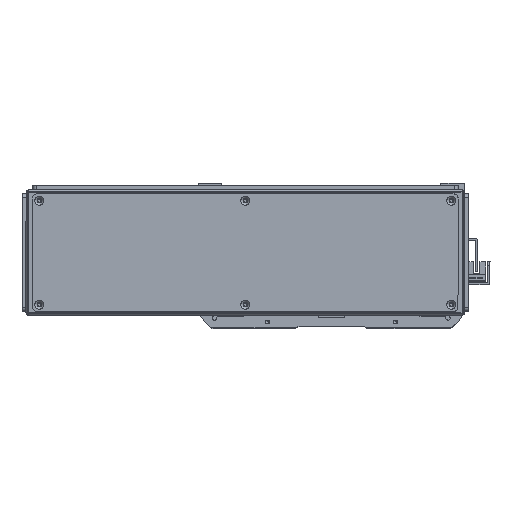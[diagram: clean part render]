
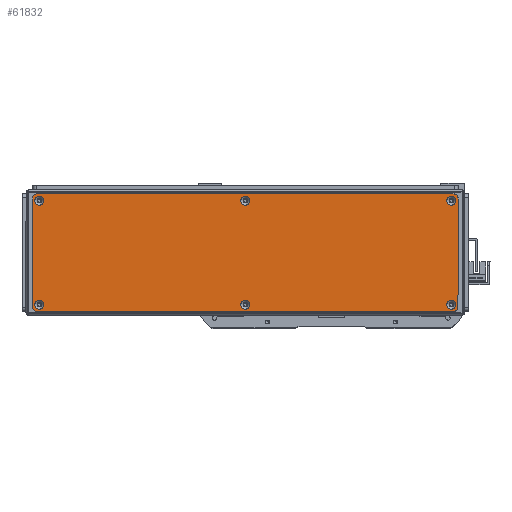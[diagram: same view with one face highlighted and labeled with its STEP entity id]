
A CAD part, front view. The second image highlights one B-rep face of the part: STEP entity #61832.
In plain terms, the highlighted planar face has unit normal (0, -1, 0).
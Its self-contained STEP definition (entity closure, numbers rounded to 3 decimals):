
#2290=FACE_BOUND('',#10142,.T.);
#2291=FACE_BOUND('',#10143,.T.);
#2292=FACE_BOUND('',#10144,.T.);
#2293=FACE_BOUND('',#10145,.T.);
#2294=FACE_BOUND('',#10146,.T.);
#2295=FACE_BOUND('',#10147,.T.);
#3544=CIRCLE('',#66507,3.45);
#3547=CIRCLE('',#66512,3.45);
#3550=CIRCLE('',#66517,3.45);
#3553=CIRCLE('',#66522,3.45);
#3556=CIRCLE('',#66527,3.45);
#3559=CIRCLE('',#66532,3.45);
#3562=CIRCLE('',#66537,3.);
#3564=CIRCLE('',#66540,3.);
#3565=CIRCLE('',#66541,3.);
#3566=CIRCLE('',#66542,3.);
#6618=FACE_OUTER_BOUND('',#10141,.T.);
#10141=EDGE_LOOP('',(#55796,#55797,#55798,#55799,#55800,#55801,#55802,#55803));
#10142=EDGE_LOOP('',(#55804));
#10143=EDGE_LOOP('',(#55805));
#10144=EDGE_LOOP('',(#55806));
#10145=EDGE_LOOP('',(#55807));
#10146=EDGE_LOOP('',(#55808));
#10147=EDGE_LOOP('',(#55809));
#17273=LINE('',#101525,#24450);
#17274=LINE('',#101529,#24451);
#17275=LINE('',#101533,#24452);
#17276=LINE('',#101536,#24453);
#24450=VECTOR('',#82158,10.);
#24451=VECTOR('',#82161,10.);
#24452=VECTOR('',#82164,10.);
#24453=VECTOR('',#82167,10.);
#30245=VERTEX_POINT('',#101455);
#30248=VERTEX_POINT('',#101465);
#30251=VERTEX_POINT('',#101475);
#30254=VERTEX_POINT('',#101485);
#30257=VERTEX_POINT('',#101495);
#30260=VERTEX_POINT('',#101505);
#30263=VERTEX_POINT('',#101515);
#30264=VERTEX_POINT('',#101516);
#30267=VERTEX_POINT('',#101524);
#30268=VERTEX_POINT('',#101526);
#30269=VERTEX_POINT('',#101528);
#30270=VERTEX_POINT('',#101530);
#30271=VERTEX_POINT('',#101532);
#30272=VERTEX_POINT('',#101534);
#38786=EDGE_CURVE('',#30245,#30245,#3544,.T.);
#38791=EDGE_CURVE('',#30248,#30248,#3547,.T.);
#38796=EDGE_CURVE('',#30251,#30251,#3550,.T.);
#38801=EDGE_CURVE('',#30254,#30254,#3553,.T.);
#38806=EDGE_CURVE('',#30257,#30257,#3556,.T.);
#38811=EDGE_CURVE('',#30260,#30260,#3559,.T.);
#38816=EDGE_CURVE('',#30263,#30264,#3562,.T.);
#38820=EDGE_CURVE('',#30263,#30267,#17273,.T.);
#38821=EDGE_CURVE('',#30268,#30267,#3564,.T.);
#38822=EDGE_CURVE('',#30268,#30269,#17274,.T.);
#38823=EDGE_CURVE('',#30270,#30269,#3565,.T.);
#38824=EDGE_CURVE('',#30270,#30271,#17275,.T.);
#38825=EDGE_CURVE('',#30272,#30271,#3566,.T.);
#38826=EDGE_CURVE('',#30272,#30264,#17276,.T.);
#55796=ORIENTED_EDGE('',*,*,#38816,.F.);
#55797=ORIENTED_EDGE('',*,*,#38820,.T.);
#55798=ORIENTED_EDGE('',*,*,#38821,.F.);
#55799=ORIENTED_EDGE('',*,*,#38822,.T.);
#55800=ORIENTED_EDGE('',*,*,#38823,.F.);
#55801=ORIENTED_EDGE('',*,*,#38824,.T.);
#55802=ORIENTED_EDGE('',*,*,#38825,.F.);
#55803=ORIENTED_EDGE('',*,*,#38826,.T.);
#55804=ORIENTED_EDGE('',*,*,#38786,.T.);
#55805=ORIENTED_EDGE('',*,*,#38791,.T.);
#55806=ORIENTED_EDGE('',*,*,#38796,.T.);
#55807=ORIENTED_EDGE('',*,*,#38801,.T.);
#55808=ORIENTED_EDGE('',*,*,#38806,.T.);
#55809=ORIENTED_EDGE('',*,*,#38811,.T.);
#58793=PLANE('',#66539);
#61832=ADVANCED_FACE('',(#6618,#2290,#2291,#2292,#2293,#2294,#2295),#58793,
 .T.);
#66507=AXIS2_PLACEMENT_3D('',#101456,#82078,#82079);
#66512=AXIS2_PLACEMENT_3D('',#101466,#82090,#82091);
#66517=AXIS2_PLACEMENT_3D('',#101476,#82102,#82103);
#66522=AXIS2_PLACEMENT_3D('',#101486,#82114,#82115);
#66527=AXIS2_PLACEMENT_3D('',#101496,#82126,#82127);
#66532=AXIS2_PLACEMENT_3D('',#101506,#82138,#82139);
#66537=AXIS2_PLACEMENT_3D('',#101517,#82150,#82151);
#66539=AXIS2_PLACEMENT_3D('',#101523,#82156,#82157);
#66540=AXIS2_PLACEMENT_3D('',#101527,#82159,#82160);
#66541=AXIS2_PLACEMENT_3D('',#101531,#82162,#82163);
#66542=AXIS2_PLACEMENT_3D('',#101535,#82165,#82166);
#82078=DIRECTION('center_axis',(0.,1.,0.));
#82079=DIRECTION('ref_axis',(1.,0.,0.));
#82090=DIRECTION('center_axis',(0.,1.,0.));
#82091=DIRECTION('ref_axis',(1.,0.,0.));
#82102=DIRECTION('center_axis',(0.,1.,0.));
#82103=DIRECTION('ref_axis',(1.,0.,0.));
#82114=DIRECTION('center_axis',(0.,1.,0.));
#82115=DIRECTION('ref_axis',(1.,0.,0.));
#82126=DIRECTION('center_axis',(0.,1.,0.));
#82127=DIRECTION('ref_axis',(1.,0.,0.));
#82138=DIRECTION('center_axis',(0.,1.,0.));
#82139=DIRECTION('ref_axis',(1.,0.,0.));
#82150=DIRECTION('center_axis',(0.,1.,0.));
#82151=DIRECTION('ref_axis',(-0.707,0.,0.707));
#82156=DIRECTION('center_axis',(0.,-1.,0.));
#82157=DIRECTION('ref_axis',(0.,0.,-1.));
#82158=DIRECTION('',(0.,0.,-1.));
#82159=DIRECTION('center_axis',(0.,1.,0.));
#82160=DIRECTION('ref_axis',(-0.707,0.,-0.707));
#82161=DIRECTION('',(1.,0.,0.));
#82162=DIRECTION('center_axis',(0.,1.,0.));
#82163=DIRECTION('ref_axis',(0.707,0.,-0.707));
#82164=DIRECTION('',(0.,0.,1.));
#82165=DIRECTION('center_axis',(0.,1.,0.));
#82166=DIRECTION('ref_axis',(0.707,0.,0.707));
#82167=DIRECTION('',(-1.,0.,0.));
#101455=CARTESIAN_POINT('',(151.05,-1.5,39.));
#101456=CARTESIAN_POINT('Origin',(154.5,-1.5,39.));
#101465=CARTESIAN_POINT('',(-3.45,-1.5,39.));
#101466=CARTESIAN_POINT('Origin',(0.,-1.5,39.));
#101475=CARTESIAN_POINT('',(-157.95,-1.5,39.));
#101476=CARTESIAN_POINT('Origin',(-154.5,-1.5,39.));
#101485=CARTESIAN_POINT('',(-157.95,-1.5,-39.));
#101486=CARTESIAN_POINT('Origin',(-154.5,-1.5,-39.));
#101495=CARTESIAN_POINT('',(-3.45,-1.5,-39.));
#101496=CARTESIAN_POINT('Origin',(0.,-1.5,-39.));
#101505=CARTESIAN_POINT('',(151.05,-1.5,-39.));
#101506=CARTESIAN_POINT('Origin',(154.5,-1.5,-39.));
#101515=CARTESIAN_POINT('',(-159.5,-1.5,41.));
#101516=CARTESIAN_POINT('',(-156.5,-1.5,44.));
#101517=CARTESIAN_POINT('Origin',(-156.5,-1.5,41.));
#101523=CARTESIAN_POINT('Origin',(0.,-1.5,0.));
#101524=CARTESIAN_POINT('',(-159.5,-1.5,-41.));
#101525=CARTESIAN_POINT('',(-159.5,-1.5,44.));
#101526=CARTESIAN_POINT('',(-156.5,-1.5,-44.));
#101527=CARTESIAN_POINT('Origin',(-156.5,-1.5,-41.));
#101528=CARTESIAN_POINT('',(156.5,-1.5,-44.));
#101529=CARTESIAN_POINT('',(-159.5,-1.5,-44.));
#101530=CARTESIAN_POINT('',(159.5,-1.5,-41.));
#101531=CARTESIAN_POINT('Origin',(156.5,-1.5,-41.));
#101532=CARTESIAN_POINT('',(159.5,-1.5,41.));
#101533=CARTESIAN_POINT('',(159.5,-1.5,-44.));
#101534=CARTESIAN_POINT('',(156.5,-1.5,44.));
#101535=CARTESIAN_POINT('Origin',(156.5,-1.5,41.));
#101536=CARTESIAN_POINT('',(159.5,-1.5,44.));
